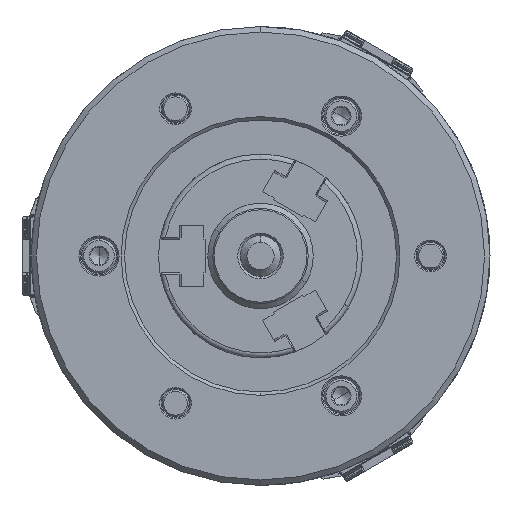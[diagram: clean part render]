
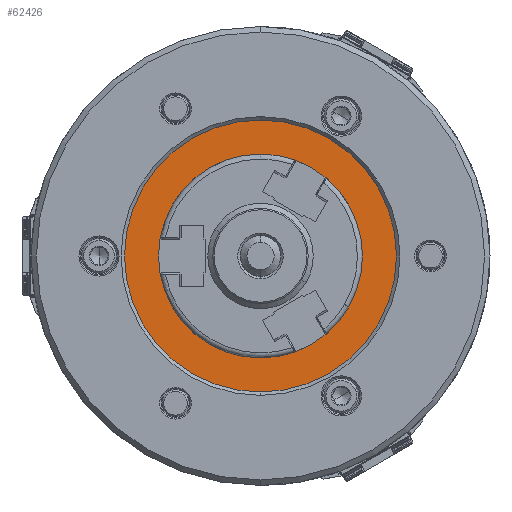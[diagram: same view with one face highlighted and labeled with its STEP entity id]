
A CAD part, left-side view. The second image highlights one B-rep face of the part: STEP entity #62426.
In plain terms, the highlighted planar face has unit normal (-1, 0, 0).
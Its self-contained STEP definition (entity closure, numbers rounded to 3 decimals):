
#2106 = AXIS2_PLACEMENT_3D ( 'NONE', #67735, #13710, #47157 ) ;
#2437 = EDGE_CURVE ( 'NONE', #11300, #2659, #41514, .T. ) ;
#2601 = EDGE_CURVE ( 'NONE', #23037, #70508, #61974, .T. ) ;
#2659 = VERTEX_POINT ( 'NONE', #90060 ) ;
#5108 = FACE_BOUND ( 'NONE', #22517, .T. ) ;
#11300 = VERTEX_POINT ( 'NONE', #41383 ) ;
#11572 = CIRCLE ( 'NONE', #62687, 40. ) ;
#12212 = DIRECTION ( 'NONE',  ( 1., 0., 0. ) ) ;
#13710 = DIRECTION ( 'NONE',  ( 1., 0., 0. ) ) ;
#16850 = ORIENTED_EDGE ( 'NONE', *, *, #2601, .F. ) ;
#17034 = FACE_OUTER_BOUND ( 'NONE', #83234, .T. ) ;
#17419 = EDGE_CURVE ( 'NONE', #2659, #11300, #33436, .T. ) ;
#20049 = DIRECTION ( 'NONE',  ( 1., 0., 0. ) ) ;
#22517 = EDGE_LOOP ( 'NONE', ( #43581, #28018 ) ) ;
#23037 = VERTEX_POINT ( 'NONE', #36907 ) ;
#25718 = DIRECTION ( 'NONE',  ( 0., 0., -1. ) ) ;
#28018 = ORIENTED_EDGE ( 'NONE', *, *, #17419, .T. ) ;
#30807 = EDGE_CURVE ( 'NONE', #70508, #23037, #11572, .T. ) ;
#33436 = CIRCLE ( 'NONE', #61200, 30. ) ;
#36707 = CARTESIAN_POINT ( 'NONE',  ( -48., 0., 40. ) ) ;
#36907 = CARTESIAN_POINT ( 'NONE',  ( -48., 0., -40. ) ) ;
#41383 = CARTESIAN_POINT ( 'NONE',  ( -48., 0., -30. ) ) ;
#41514 = CIRCLE ( 'NONE', #45926, 30. ) ;
#43581 = ORIENTED_EDGE ( 'NONE', *, *, #2437, .T. ) ;
#45839 = CARTESIAN_POINT ( 'NONE',  ( -48., -40., 0. ) ) ;
#45926 = AXIS2_PLACEMENT_3D ( 'NONE', #79650, #80096, #59097 ) ;
#46987 = CARTESIAN_POINT ( 'NONE',  ( -48., 0., 0. ) ) ;
#47157 = DIRECTION ( 'NONE',  ( 0., 0., -1. ) ) ;
#47390 = AXIS2_PLACEMENT_3D ( 'NONE', #45839, #73715, #25718 ) ;
#47867 = DIRECTION ( 'NONE',  ( 0., 0., -1. ) ) ;
#59097 = DIRECTION ( 'NONE',  ( 0., 0., -1. ) ) ;
#61200 = AXIS2_PLACEMENT_3D ( 'NONE', #70747, #20049, #61661 ) ;
#61661 = DIRECTION ( 'NONE',  ( 0., 0., -1. ) ) ;
#61974 = CIRCLE ( 'NONE', #2106, 40. ) ;
#62426 = ADVANCED_FACE ( 'NONE', ( #17034, #5108 ), #88747, .F. ) ;
#62687 = AXIS2_PLACEMENT_3D ( 'NONE', #46987, #12212, #47867 ) ;
#67735 = CARTESIAN_POINT ( 'NONE',  ( -48., 0., 0. ) ) ;
#70508 = VERTEX_POINT ( 'NONE', #36707 ) ;
#70747 = CARTESIAN_POINT ( 'NONE',  ( -48., 0., 0. ) ) ;
#73715 = DIRECTION ( 'NONE',  ( 1., 0., 0. ) ) ;
#79650 = CARTESIAN_POINT ( 'NONE',  ( -48., 0., 0. ) ) ;
#80096 = DIRECTION ( 'NONE',  ( 1., 0., 0. ) ) ;
#83234 = EDGE_LOOP ( 'NONE', ( #16850, #89192 ) ) ;
#88747 = PLANE ( 'NONE',  #47390 ) ;
#89192 = ORIENTED_EDGE ( 'NONE', *, *, #30807, .F. ) ;
#90060 = CARTESIAN_POINT ( 'NONE',  ( -48., 0., 30. ) ) ;
